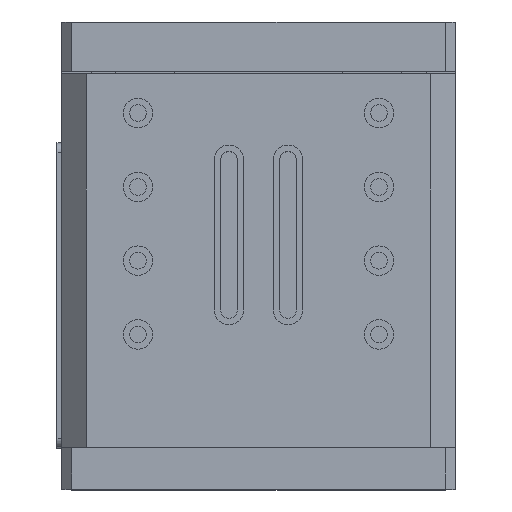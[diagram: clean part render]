
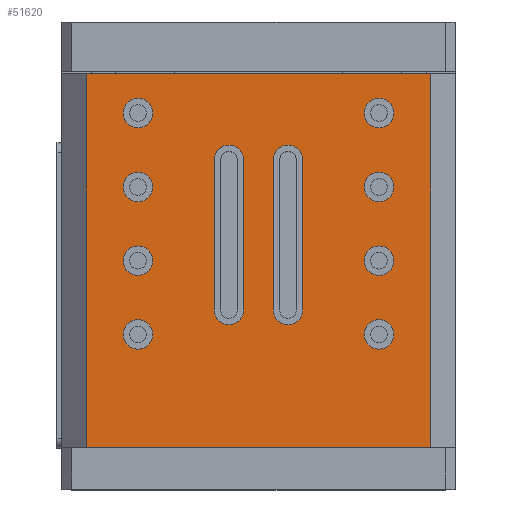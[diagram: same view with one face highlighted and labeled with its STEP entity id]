
A CAD part, top view. The second image highlights one B-rep face of the part: STEP entity #51620.
In plain terms, the highlighted planar face has unit normal (0, 0, 1).
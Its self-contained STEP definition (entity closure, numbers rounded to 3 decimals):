
#3018=FACE_BOUND('',#9807,.T.);
#3019=FACE_BOUND('',#9808,.T.);
#3020=FACE_BOUND('',#9809,.T.);
#3021=FACE_BOUND('',#9810,.T.);
#3022=FACE_BOUND('',#9811,.T.);
#3023=FACE_BOUND('',#9812,.T.);
#3024=FACE_BOUND('',#9813,.T.);
#3025=FACE_BOUND('',#9814,.T.);
#3026=FACE_BOUND('',#9815,.T.);
#3027=FACE_BOUND('',#9816,.T.);
#6233=FACE_OUTER_BOUND('',#9806,.T.);
#9806=EDGE_LOOP('',(#45451,#45452,#45453,#45454));
#9807=EDGE_LOOP('',(#45455,#45456,#45457,#45458));
#9808=EDGE_LOOP('',(#45459,#45460,#45461,#45462));
#9809=EDGE_LOOP('',(#45463));
#9810=EDGE_LOOP('',(#45464));
#9811=EDGE_LOOP('',(#45465));
#9812=EDGE_LOOP('',(#45466));
#9813=EDGE_LOOP('',(#45467));
#9814=EDGE_LOOP('',(#45468));
#9815=EDGE_LOOP('',(#45469));
#9816=EDGE_LOOP('',(#45470));
#13112=LINE('',#94400,#16567);
#13117=LINE('',#94414,#16572);
#13122=LINE('',#94433,#16577);
#13127=LINE('',#94447,#16582);
#13187=LINE('',#94695,#16642);
#13188=LINE('',#94698,#16643);
#13189=LINE('',#94700,#16644);
#13190=LINE('',#94701,#16645);
#16567=VECTOR('',#74509,10.);
#16572=VECTOR('',#74522,10.);
#16577=VECTOR('',#74541,10.);
#16582=VECTOR('',#74554,10.);
#16642=VECTOR('',#74832,10.);
#16643=VECTOR('',#74835,10.);
#16644=VECTOR('',#74836,10.);
#16645=VECTOR('',#74837,10.);
#20668=CIRCLE('',#58412,3.);
#20670=CIRCLE('',#58416,3.);
#20674=CIRCLE('',#58423,3.);
#20676=CIRCLE('',#58427,3.);
#20686=CIRCLE('',#58447,3.);
#20690=CIRCLE('',#58454,3.);
#20694=CIRCLE('',#58461,3.);
#20698=CIRCLE('',#58468,3.);
#20702=CIRCLE('',#58475,3.);
#20706=CIRCLE('',#58482,3.);
#20710=CIRCLE('',#58489,3.);
#20714=CIRCLE('',#58496,3.);
#24430=VERTEX_POINT('',#94398);
#24431=VERTEX_POINT('',#94399);
#24434=VERTEX_POINT('',#94407);
#24436=VERTEX_POINT('',#94413);
#24442=VERTEX_POINT('',#94431);
#24443=VERTEX_POINT('',#94432);
#24446=VERTEX_POINT('',#94440);
#24448=VERTEX_POINT('',#94446);
#24468=VERTEX_POINT('',#94508);
#24472=VERTEX_POINT('',#94521);
#24476=VERTEX_POINT('',#94534);
#24480=VERTEX_POINT('',#94547);
#24484=VERTEX_POINT('',#94560);
#24488=VERTEX_POINT('',#94573);
#24492=VERTEX_POINT('',#94586);
#24496=VERTEX_POINT('',#94599);
#24524=VERTEX_POINT('',#94688);
#24527=VERTEX_POINT('',#94693);
#24528=VERTEX_POINT('',#94697);
#24529=VERTEX_POINT('',#94699);
#31518=EDGE_CURVE('',#24430,#24431,#13112,.T.);
#31522=EDGE_CURVE('',#24434,#24430,#20668,.T.);
#31525=EDGE_CURVE('',#24436,#24434,#13117,.T.);
#31528=EDGE_CURVE('',#24431,#24436,#20670,.T.);
#31534=EDGE_CURVE('',#24442,#24443,#13122,.T.);
#31538=EDGE_CURVE('',#24446,#24442,#20674,.T.);
#31541=EDGE_CURVE('',#24448,#24446,#13127,.T.);
#31544=EDGE_CURVE('',#24443,#24448,#20676,.T.);
#31573=EDGE_CURVE('',#24468,#24468,#20686,.T.);
#31579=EDGE_CURVE('',#24472,#24472,#20690,.T.);
#31585=EDGE_CURVE('',#24476,#24476,#20694,.T.);
#31591=EDGE_CURVE('',#24480,#24480,#20698,.T.);
#31597=EDGE_CURVE('',#24484,#24484,#20702,.T.);
#31603=EDGE_CURVE('',#24488,#24488,#20706,.T.);
#31609=EDGE_CURVE('',#24492,#24492,#20710,.T.);
#31615=EDGE_CURVE('',#24496,#24496,#20714,.T.);
#31656=EDGE_CURVE('',#24527,#24524,#13187,.T.);
#31657=EDGE_CURVE('',#24528,#24527,#13188,.T.);
#31658=EDGE_CURVE('',#24529,#24528,#13189,.T.);
#31659=EDGE_CURVE('',#24524,#24529,#13190,.T.);
#45451=ORIENTED_EDGE('',*,*,#31656,.F.);
#45452=ORIENTED_EDGE('',*,*,#31657,.F.);
#45453=ORIENTED_EDGE('',*,*,#31658,.F.);
#45454=ORIENTED_EDGE('',*,*,#31659,.F.);
#45455=ORIENTED_EDGE('',*,*,#31518,.T.);
#45456=ORIENTED_EDGE('',*,*,#31528,.T.);
#45457=ORIENTED_EDGE('',*,*,#31525,.T.);
#45458=ORIENTED_EDGE('',*,*,#31522,.T.);
#45459=ORIENTED_EDGE('',*,*,#31534,.T.);
#45460=ORIENTED_EDGE('',*,*,#31544,.T.);
#45461=ORIENTED_EDGE('',*,*,#31541,.T.);
#45462=ORIENTED_EDGE('',*,*,#31538,.T.);
#45463=ORIENTED_EDGE('',*,*,#31573,.T.);
#45464=ORIENTED_EDGE('',*,*,#31579,.T.);
#45465=ORIENTED_EDGE('',*,*,#31585,.T.);
#45466=ORIENTED_EDGE('',*,*,#31591,.T.);
#45467=ORIENTED_EDGE('',*,*,#31597,.T.);
#45468=ORIENTED_EDGE('',*,*,#31603,.T.);
#45469=ORIENTED_EDGE('',*,*,#31609,.T.);
#45470=ORIENTED_EDGE('',*,*,#31615,.T.);
#48244=PLANE('',#58535);
#51620=ADVANCED_FACE('',(#6233,#3018,#3019,#3020,#3021,#3022,#3023,#3024,
#3025,#3026,#3027),#48244,.T.);
#58412=AXIS2_PLACEMENT_3D('',#94408,#74515,#74516);
#58416=AXIS2_PLACEMENT_3D('',#94419,#74527,#74528);
#58423=AXIS2_PLACEMENT_3D('',#94441,#74547,#74548);
#58427=AXIS2_PLACEMENT_3D('',#94452,#74559,#74560);
#58447=AXIS2_PLACEMENT_3D('',#94510,#74618,#74619);
#58454=AXIS2_PLACEMENT_3D('',#94523,#74634,#74635);
#58461=AXIS2_PLACEMENT_3D('',#94536,#74650,#74651);
#58468=AXIS2_PLACEMENT_3D('',#94549,#74666,#74667);
#58475=AXIS2_PLACEMENT_3D('',#94562,#74682,#74683);
#58482=AXIS2_PLACEMENT_3D('',#94575,#74698,#74699);
#58489=AXIS2_PLACEMENT_3D('',#94588,#74714,#74715);
#58496=AXIS2_PLACEMENT_3D('',#94601,#74730,#74731);
#58535=AXIS2_PLACEMENT_3D('',#94696,#74833,#74834);
#74509=DIRECTION('',(0.,-1.,0.));
#74515=DIRECTION('center_axis',(0.,0.,-1.));
#74516=DIRECTION('ref_axis',(1.,0.,0.));
#74522=DIRECTION('',(0.,1.,0.));
#74527=DIRECTION('center_axis',(0.,0.,-1.));
#74528=DIRECTION('ref_axis',(-1.,0.,0.));
#74541=DIRECTION('',(0.,-1.,0.));
#74547=DIRECTION('center_axis',(0.,0.,-1.));
#74548=DIRECTION('ref_axis',(1.,0.,0.));
#74554=DIRECTION('',(0.,1.,0.));
#74559=DIRECTION('center_axis',(0.,0.,-1.));
#74560=DIRECTION('ref_axis',(-1.,0.,0.));
#74618=DIRECTION('center_axis',(0.,0.,-1.));
#74619=DIRECTION('ref_axis',(1.,0.,0.));
#74634=DIRECTION('center_axis',(0.,0.,-1.));
#74635=DIRECTION('ref_axis',(1.,0.,0.));
#74650=DIRECTION('center_axis',(0.,0.,-1.));
#74651=DIRECTION('ref_axis',(1.,0.,0.));
#74666=DIRECTION('center_axis',(0.,0.,-1.));
#74667=DIRECTION('ref_axis',(1.,0.,0.));
#74682=DIRECTION('center_axis',(0.,0.,-1.));
#74683=DIRECTION('ref_axis',(1.,0.,0.));
#74698=DIRECTION('center_axis',(0.,0.,-1.));
#74699=DIRECTION('ref_axis',(1.,0.,0.));
#74714=DIRECTION('center_axis',(0.,0.,-1.));
#74715=DIRECTION('ref_axis',(1.,0.,0.));
#74730=DIRECTION('center_axis',(0.,0.,-1.));
#74731=DIRECTION('ref_axis',(1.,0.,0.));
#74832=DIRECTION('',(0.,1.,0.));
#74833=DIRECTION('center_axis',(0.,0.,1.));
#74834=DIRECTION('ref_axis',(1.,0.,0.));
#74835=DIRECTION('',(-1.,0.,0.));
#74836=DIRECTION('',(0.,-1.,0.));
#74837=DIRECTION('',(1.,0.,0.));
#94398=CARTESIAN_POINT('',(9.,67.,30.));
#94399=CARTESIAN_POINT('',(9.,36.5,30.));
#94400=CARTESIAN_POINT('',(9.,37.75,30.));
#94407=CARTESIAN_POINT('',(3.,67.,30.));
#94408=CARTESIAN_POINT('Origin',(6.,67.,30.));
#94413=CARTESIAN_POINT('',(3.,36.5,30.));
#94414=CARTESIAN_POINT('',(3.,22.5,30.));
#94419=CARTESIAN_POINT('Origin',(6.,36.5,30.));
#94431=CARTESIAN_POINT('',(-3.,67.,30.));
#94432=CARTESIAN_POINT('',(-3.,36.5,30.));
#94433=CARTESIAN_POINT('',(-3.,37.75,30.));
#94440=CARTESIAN_POINT('',(-9.,67.,30.));
#94441=CARTESIAN_POINT('Origin',(-6.,67.,30.));
#94446=CARTESIAN_POINT('',(-9.,36.5,30.));
#94447=CARTESIAN_POINT('',(-9.,22.5,30.));
#94452=CARTESIAN_POINT('Origin',(-6.,36.5,30.));
#94508=CARTESIAN_POINT('',(-27.5,76.5,30.));
#94510=CARTESIAN_POINT('Origin',(-24.5,76.5,30.));
#94521=CARTESIAN_POINT('',(-27.5,61.5,30.));
#94523=CARTESIAN_POINT('Origin',(-24.5,61.5,30.));
#94534=CARTESIAN_POINT('',(-27.5,46.5,30.));
#94536=CARTESIAN_POINT('Origin',(-24.5,46.5,30.));
#94547=CARTESIAN_POINT('',(-27.5,31.5,30.));
#94549=CARTESIAN_POINT('Origin',(-24.5,31.5,30.));
#94560=CARTESIAN_POINT('',(21.5,31.5,30.));
#94562=CARTESIAN_POINT('Origin',(24.5,31.5,30.));
#94573=CARTESIAN_POINT('',(21.5,46.5,30.));
#94575=CARTESIAN_POINT('Origin',(24.5,46.5,30.));
#94586=CARTESIAN_POINT('',(21.5,61.5,30.));
#94588=CARTESIAN_POINT('Origin',(24.5,61.5,30.));
#94599=CARTESIAN_POINT('',(21.5,76.5,30.));
#94601=CARTESIAN_POINT('Origin',(24.5,76.5,30.));
#94688=CARTESIAN_POINT('',(-35.,84.5,30.));
#94693=CARTESIAN_POINT('',(-35.,8.5,30.));
#94695=CARTESIAN_POINT('',(-35.,8.5,30.));
#94696=CARTESIAN_POINT('Origin',(-40.,8.5,30.));
#94697=CARTESIAN_POINT('',(35.,8.5,30.));
#94698=CARTESIAN_POINT('',(-20.,8.5,30.));
#94699=CARTESIAN_POINT('',(35.,84.5,30.));
#94700=CARTESIAN_POINT('',(35.,8.5,30.));
#94701=CARTESIAN_POINT('',(-40.,84.5,30.));
